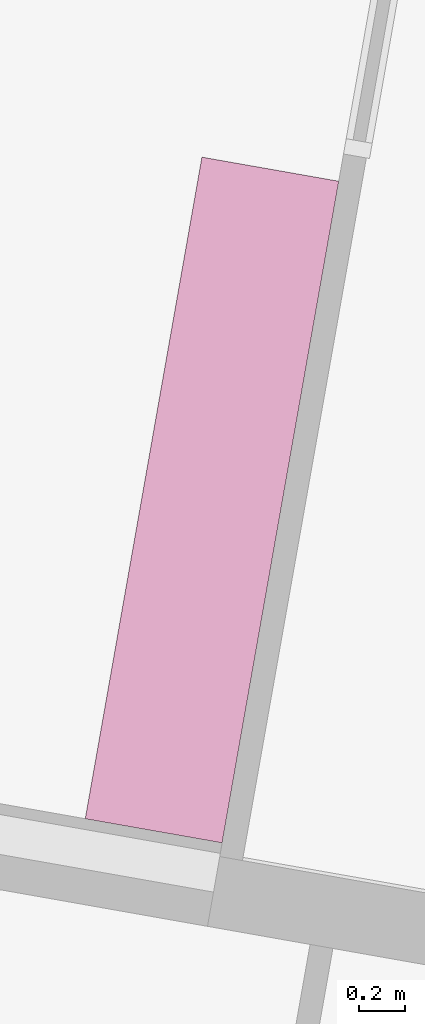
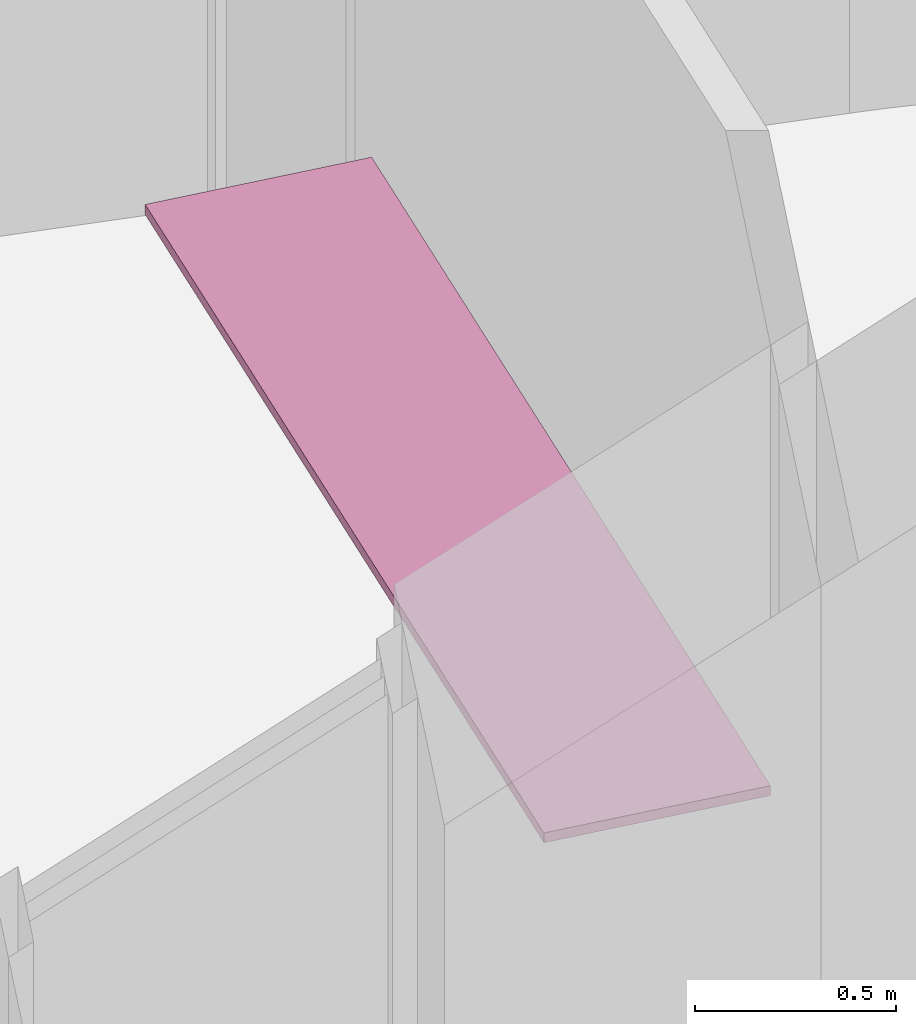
# One storey, part 19 of 21: 1 furnishing.
"""IFC2X3 building model written with IfcOpenShell, lengths in millimetres."""

from ifc_helpers import new_model, entity, si_unit, converted_unit, derived_unit, direction, frame, frame_2d, origin, place, context, subcontext, project, spatial, rectangle, extrude, source, transform, mapped, material, type_object, type_shapes, element, save


model = new_model("IFC2X3")

# Units and contexts
model_context = context("Model", 3, precision=0.01, world=origin(), true_north=direction((6.12303176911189e-17, 1.0)))
body_context = subcontext(model_context, "Body", "Model", "MODEL_VIEW")
ifc_project = project(units=[si_unit("LENGTHUNIT", "METRE", prefix="MILLI"), si_unit("AREAUNIT", "SQUARE_METRE"), si_unit("VOLUMEUNIT", "CUBIC_METRE"), converted_unit("PLANEANGLEUNIT", "DEGREE", entity("IfcRatioMeasure", 0.0174532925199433), si_unit("PLANEANGLEUNIT", "RADIAN"), dimensions=[0, 0, 0, 0, 0, 0, 0]), si_unit("MASSUNIT", "GRAM", prefix="KILO"), derived_unit("MASSDENSITYUNIT", [(si_unit("MASSUNIT", "GRAM", prefix="KILO"), 1), (si_unit("LENGTHUNIT", "METRE"), -3)]), derived_unit("MOMENTOFINERTIAUNIT", [(si_unit("LENGTHUNIT", "METRE"), 4)]), si_unit("TIMEUNIT", "SECOND"), si_unit("FREQUENCYUNIT", "HERTZ"), si_unit("THERMODYNAMICTEMPERATUREUNIT", "DEGREE_CELSIUS"), derived_unit("THERMALTRANSMITTANCEUNIT", [(si_unit("MASSUNIT", "GRAM", prefix="KILO"), 1), (si_unit("THERMODYNAMICTEMPERATUREUNIT", "KELVIN"), -1), (si_unit("TIMEUNIT", "SECOND"), -3)]), derived_unit("VOLUMETRICFLOWRATEUNIT", [(si_unit("LENGTHUNIT", "METRE"), 3), (si_unit("TIMEUNIT", "SECOND"), -1)]), si_unit("ELECTRICCURRENTUNIT", "AMPERE"), si_unit("ELECTRICVOLTAGEUNIT", "VOLT"), si_unit("POWERUNIT", "WATT"), si_unit("FORCEUNIT", "NEWTON", prefix="KILO"), si_unit("ILLUMINANCEUNIT", "LUX"), si_unit("LUMINOUSFLUXUNIT", "LUMEN"), si_unit("LUMINOUSINTENSITYUNIT", "CANDELA"), derived_unit("USERDEFINED", [(si_unit("MASSUNIT", "GRAM", prefix="KILO"), -1), (si_unit("LENGTHUNIT", "METRE"), -2), (si_unit("TIMEUNIT", "SECOND"), 3), (si_unit("LUMINOUSFLUXUNIT", "LUMEN"), 1)]), derived_unit("LINEARVELOCITYUNIT", [(si_unit("LENGTHUNIT", "METRE"), 1), (si_unit("TIMEUNIT", "SECOND"), -1)]), si_unit("PRESSUREUNIT", "PASCAL"), derived_unit("USERDEFINED", [(si_unit("LENGTHUNIT", "METRE"), -2), (si_unit("MASSUNIT", "GRAM", prefix="KILO"), 1), (si_unit("TIMEUNIT", "SECOND"), -2)]), derived_unit("LINEARFORCEUNIT", [(si_unit("MASSUNIT", "GRAM", prefix="KILO"), 1), (si_unit("LENGTHUNIT", "METRE"), 1), (si_unit("TIMEUNIT", "SECOND"), -2), (si_unit("LENGTHUNIT", "METRE"), -1)]), derived_unit("PLANARFORCEUNIT", [(si_unit("MASSUNIT", "GRAM", prefix="KILO"), 1), (si_unit("LENGTHUNIT", "METRE"), 1), (si_unit("TIMEUNIT", "SECOND"), -2), (si_unit("LENGTHUNIT", "METRE"), -2)])], contexts=[model_context])

# Site, building, storey
site_placement = place(None, origin())
site = spatial("IfcSite", under=ifc_project, at=site_placement, Name="<Kadaster Gemeente>;<Kadaster nummer>;<Kadaster sectie>", CompositionType="ELEMENT")
building_placement = place(site_placement, origin())
building = spatial("IfcBuilding", under=site, at=building_placement, Name="JRCZ Middelburg", CompositionType="ELEMENT")
storey_placement = place(building_placement, origin())
storey = spatial("IfcBuildingStorey", under=building, at=storey_placement, Name="00 begane grond", CompositionType="ELEMENT", Elevation=0.0)

# Furnishing
ifc_material = material(Name="<Unnamed>")
system_furniture_element_type = type_object("IfcSystemFurnitureElementType", Name="NLRS_73_FUS_UN_blad_generiek_generiek_ISR:blad_gen", material=ifc_material)
shared_shape = source(origin(), body_context, "Body", "SweptSolid", [
    extrude(rectangle(XDim=2901.99999999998, YDim=600.0, at=frame_2d((0.0, -2.8421709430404e-14), x_axis=(1.0, 0.0))), frame((40.9977531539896, 75.3372473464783, 870.0), z_axis=(0.0, 0.0, 1.0), x_axis=(-1.0, 0.0, 0.0)), (0.0, 0.0, 1.0), 29.9999999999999),
])
type_shapes(system_furniture_element_type, [shared_shape])
furnishing_placement = place(storey_placement, frame((27192.8387410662, 20410.9640082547, 0.0), z_axis=(0.0, 0.0, 1.0), x_axis=(0.173648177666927, 0.984807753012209, 0.0)))
element("IfcFurnishingElement", 1, at=furnishing_placement, inside=storey, type_object=system_furniture_element_type, material=ifc_material, Name="NLRS_73_FUS_UN_blad_generiek_generiek_ISR:blad_gen", ObjectType="NLRS_73_FUS_UN_blad_generiek_generiek_ISR:blad_gen", context=body_context, shape_type="MappedRepresentation", body=[
    mapped(shared_shape, transform((0.0, 0.0, 0.0), scale=1.0)),
])

save(model, "model.ifc")
